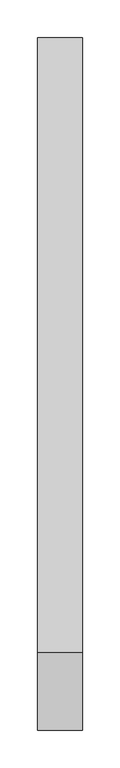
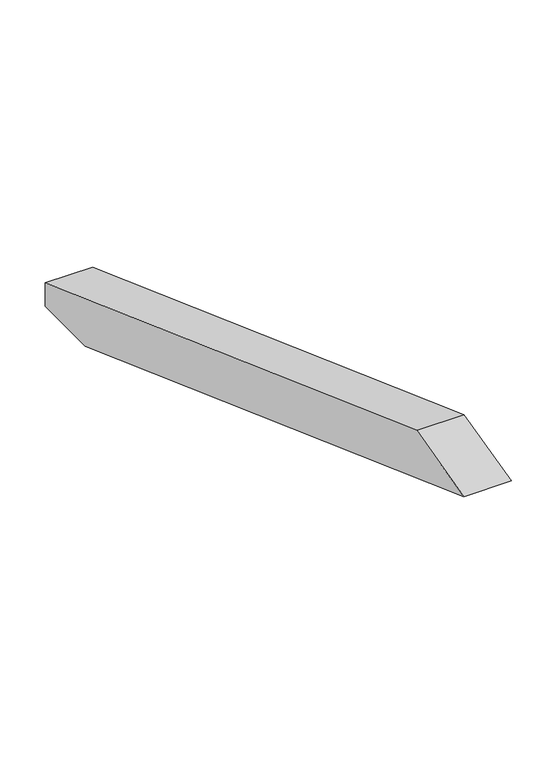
"""IFC4 building model written with IfcOpenShell, lengths in millimetres: proxy geometry, Modelos genéricos 94 : Modelos genéricos 14."""

from ifc_helpers import new_model, si_unit, frame, origin, place, context, project, spatial, polyline, outline, extrude, source, transform, mapped, element, save


def generic_models_c853bdce(model_context):
    return source(origin(), model_context, "Body", "SweptSolid", [
        extrude(outline(polyline([(-422.9933771, 3463.5158927), (-318.8830723, 3489.473507), (498.6238165, 3191.9253332), (498.6238165, 3160.0), (410.9096845, 3160.0), (-422.9933771, 3463.5158927)])), frame((1923.4472467, 0.0, 0.0), z_axis=(1.0, 0.0, 0.0), x_axis=(0.0, 1.0, 0.0)), (0.0, 0.0, 1.0), 60.0),
    ])


if __name__ == "__main__":
    model = new_model("IFC4")
    model_context = context("Model", 3, world=origin())
    ifc_project = project(units=[si_unit("LENGTHUNIT", "METRE", prefix="MILLI")], contexts=[model_context])
    site = spatial("IfcSite", under=ifc_project)
    building = spatial("IfcBuilding", under=site)
    placement = place(None, origin())
    generic_models_shape = generic_models_c853bdce(model_context)
    element("IfcBuildingElementProxy", 1, Name="Modelos genéricos 94 : Modelos genéricos 14", ObjectType="Modelos genéricos 94 : Modelos genéricos 14", at=placement, inside=building, context=model_context, shape_type="MappedRepresentation", body=[
        mapped(generic_models_shape, transform((0.0, 0.0, 0.0), x_axis=(1.0, 0.0, 0.0), y_axis=(0.0, 1.0, 0.0), z_axis=(0.0, 0.0, 1.0))),
    ])
    save(model, "model.ifc")
